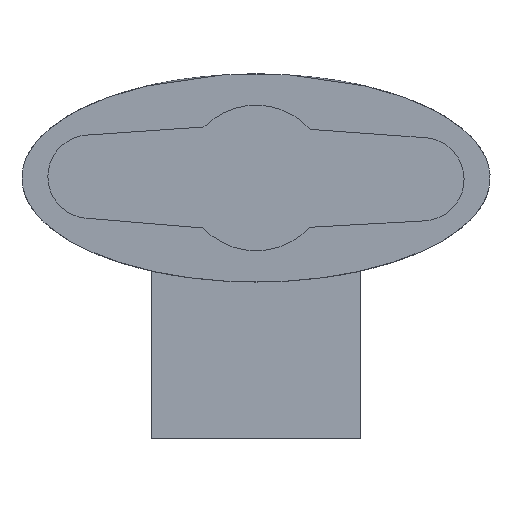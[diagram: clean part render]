
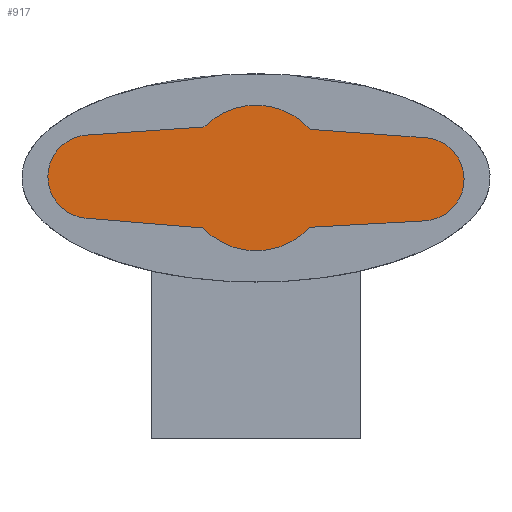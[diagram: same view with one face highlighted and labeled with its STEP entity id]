
A CAD part, left-side view. The second image highlights one B-rep face of the part: STEP entity #917.
In plain terms, the highlighted planar face has unit normal (-1, 0, 0).
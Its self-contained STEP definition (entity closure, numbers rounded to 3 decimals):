
#34=ELLIPSE('',#956,1.45,1.44);
#64=PLANE('',#1000);
#109=FACE_OUTER_BOUND('',#161,.T.);
#161=EDGE_LOOP('',(#817,#818,#819,#820,#821,#822,#823,#824,#825));
#256=LINE('',#1752,#344);
#257=LINE('',#1754,#345);
#258=LINE('',#1756,#346);
#259=LINE('',#1758,#347);
#344=VECTOR('',#1226,10.);
#345=VECTOR('',#1229,10.);
#346=VECTOR('',#1232,10.);
#347=VECTOR('',#1235,10.);
#355=CIRCLE('',#961,7.);
#357=CIRCLE('',#964,4.006);
#358=CIRCLE('',#966,7.);
#360=CIRCLE('',#969,4.005);
#427=VERTEX_POINT('',#1388);
#428=VERTEX_POINT('',#1390);
#436=VERTEX_POINT('',#1494);
#437=VERTEX_POINT('',#1496);
#439=VERTEX_POINT('',#1502);
#440=VERTEX_POINT('',#1506);
#442=VERTEX_POINT('',#1509);
#444=VERTEX_POINT('',#1515);
#446=VERTEX_POINT('',#1518);
#534=EDGE_CURVE('',#428,#427,#34,.T.);
#544=EDGE_CURVE('',#437,#436,#355,.T.);
#548=EDGE_CURVE('',#427,#439,#357,.T.);
#550=EDGE_CURVE('',#442,#440,#358,.T.);
#554=EDGE_CURVE('',#446,#444,#360,.T.);
#591=EDGE_CURVE('',#439,#437,#256,.T.);
#592=EDGE_CURVE('',#440,#428,#257,.T.);
#593=EDGE_CURVE('',#444,#442,#258,.T.);
#594=EDGE_CURVE('',#436,#446,#259,.T.);
#817=ORIENTED_EDGE('',*,*,#592,.T.);
#818=ORIENTED_EDGE('',*,*,#534,.T.);
#819=ORIENTED_EDGE('',*,*,#548,.T.);
#820=ORIENTED_EDGE('',*,*,#591,.T.);
#821=ORIENTED_EDGE('',*,*,#544,.T.);
#822=ORIENTED_EDGE('',*,*,#594,.T.);
#823=ORIENTED_EDGE('',*,*,#554,.T.);
#824=ORIENTED_EDGE('',*,*,#593,.T.);
#825=ORIENTED_EDGE('',*,*,#550,.T.);
#917=ADVANCED_FACE('',(#109),#64,.F.);
#956=AXIS2_PLACEMENT_3D('',#1391,#1124,#1125);
#961=AXIS2_PLACEMENT_3D('',#1497,#1136,#1137);
#964=AXIS2_PLACEMENT_3D('',#1504,#1144,#1145);
#966=AXIS2_PLACEMENT_3D('',#1510,#1149,#1150);
#969=AXIS2_PLACEMENT_3D('',#1519,#1157,#1158);
#1000=AXIS2_PLACEMENT_3D('',#1846,#1238,#1239);
#1124=DIRECTION('center_axis',(1.,0.,0.));
#1125=DIRECTION('ref_axis',(0.,0.046,0.999));
#1136=DIRECTION('center_axis',(-1.,0.,0.));
#1137=DIRECTION('ref_axis',(0.,0.,
1.));
#1144=DIRECTION('center_axis',(-1.,0.,0.));
#1145=DIRECTION('ref_axis',(0.,0.,-1.));
#1149=DIRECTION('center_axis',(-1.,0.,0.));
#1150=DIRECTION('ref_axis',(0.,0.,
1.));
#1157=DIRECTION('center_axis',(-1.,0.,0.));
#1158=DIRECTION('ref_axis',(0.,0.069,0.998));
#1226=DIRECTION('',(0.,0.997,0.072));
#1229=DIRECTION('',(0.,-0.998,0.056));
#1232=DIRECTION('',(0.,-0.996,-0.084));
#1235=DIRECTION('',(0.,0.998,-0.069));
#1238=DIRECTION('center_axis',(1.,0.,0.));
#1239=DIRECTION('ref_axis',(0.,1.,0.));
#1388=CARTESIAN_POINT('',(-40.,-103.774,8.38));
#1390=CARTESIAN_POINT('',(-40.,-103.665,8.375));
#1391=CARTESIAN_POINT('Origin',(-40.,-103.788,6.931));
#1494=CARTESIAN_POINT('',(-40.,-82.502,17.401));
#1496=CARTESIAN_POINT('',(-40.,-92.715,17.17));
#1497=CARTESIAN_POINT('Origin',(-40.,-87.5,12.5));
#1502=CARTESIAN_POINT('',(-40.,-103.558,16.382));
#1504=CARTESIAN_POINT('Origin',(-40.,-103.493,12.377));
#1506=CARTESIAN_POINT('',(-40.,-92.649,7.758));
#1509=CARTESIAN_POINT('',(-40.,-82.421,7.683));
#1510=CARTESIAN_POINT('Origin',(-40.,-87.5,12.5));
#1515=CARTESIAN_POINT('',(-40.,-71.169,8.632));
#1518=CARTESIAN_POINT('',(-40.,-71.227,16.617));
#1519=CARTESIAN_POINT('Origin',(-40.,-71.505,12.622));
#1752=CARTESIAN_POINT('',(-40.,-93.382,17.121));
#1754=CARTESIAN_POINT('',(-40.,-94.257,7.848));
#1756=CARTESIAN_POINT('',(-40.,-82.31,7.693));
#1758=CARTESIAN_POINT('',(-40.,-82.374,17.392));
#1846=CARTESIAN_POINT('Origin',(-40.,-88.259,12.378));
